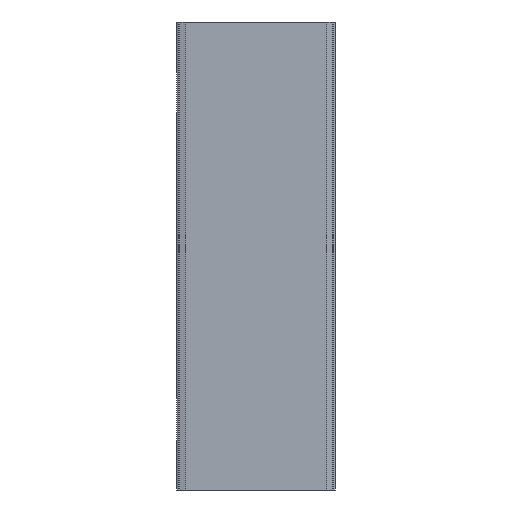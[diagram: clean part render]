
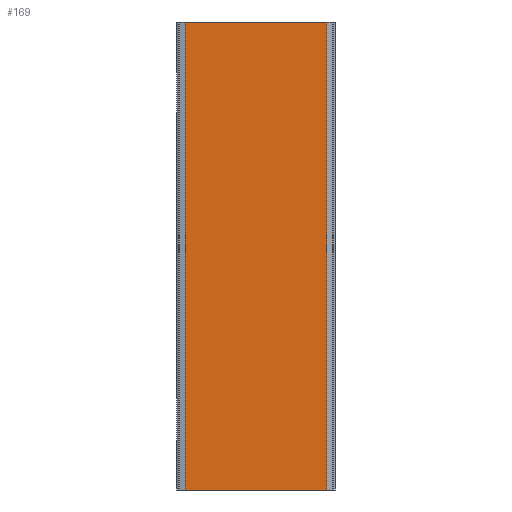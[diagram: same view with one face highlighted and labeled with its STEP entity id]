
A CAD part, front view. The second image highlights one B-rep face of the part: STEP entity #169.
In plain terms, the highlighted planar face has unit normal (0, -1, 0).
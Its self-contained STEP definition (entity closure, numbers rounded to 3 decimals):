
#113=CARTESIAN_POINT('',(104.,-74.,430.0));
#114=VERTEX_POINT('',#113);
#121=CARTESIAN_POINT('',(104.,-74.,0.0));
#122=VERTEX_POINT('',#121);
#123=CARTESIAN_POINT('',(104.,-74.,0.0));
#124=DIRECTION('',(0.0,0.0,1.0));
#125=VECTOR('',#124,430.0);
#126=LINE('',#123,#125);
#127=EDGE_CURVE('',#122,#114,#126,.T.);
#139=CARTESIAN_POINT('',(104.,-74.,0.0));
#140=DIRECTION('',(0.0,-1.0,0.0));
#141=DIRECTION('',(0.0,0.0,-1.0));
#142=AXIS2_PLACEMENT_3D('',#139,#140,#141);
#143=PLANE('',#142);
#144=CARTESIAN_POINT('',(-26.,-74.,430.0));
#145=VERTEX_POINT('',#144);
#146=CARTESIAN_POINT('',(104.0,-74.,430.0));
#147=DIRECTION('',(-1.0,0.0,0.0));
#148=VECTOR('',#147,130.);
#149=LINE('',#146,#148);
#150=EDGE_CURVE('',#114,#145,#149,.T.);
#151=ORIENTED_EDGE('',*,*,#150,.T.);
#152=CARTESIAN_POINT('',(-26.,-74.,0.0));
#153=VERTEX_POINT('',#152);
#154=CARTESIAN_POINT('',(-26.,-74.,0.0));
#155=DIRECTION('',(0.0,0.0,1.0));
#156=VECTOR('',#155,430.0);
#157=LINE('',#154,#156);
#158=EDGE_CURVE('',#153,#145,#157,.T.);
#159=ORIENTED_EDGE('',*,*,#158,.F.);
#160=CARTESIAN_POINT('',(-26.,-74.,0.0));
#161=DIRECTION('',(1.0,0.0,0.0));
#162=VECTOR('',#161,130.);
#163=LINE('',#160,#162);
#164=EDGE_CURVE('',#153,#122,#163,.T.);
#165=ORIENTED_EDGE('',*,*,#164,.T.);
#166=ORIENTED_EDGE('',*,*,#127,.T.);
#167=EDGE_LOOP('',(#151,#159,#165,#166));
#168=FACE_OUTER_BOUND('',#167,.T.);
#169=ADVANCED_FACE('',(#168),#143,.T.);
